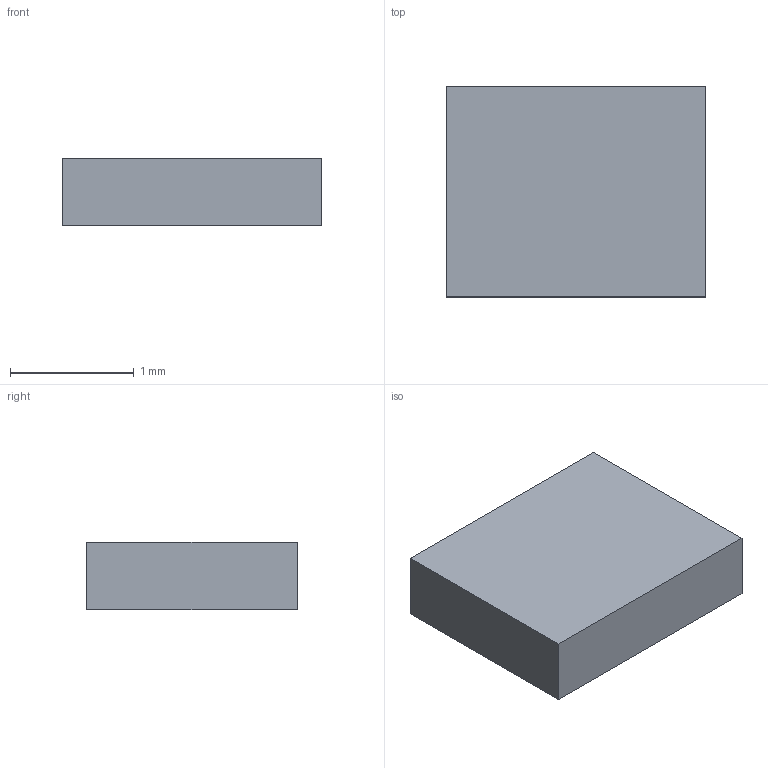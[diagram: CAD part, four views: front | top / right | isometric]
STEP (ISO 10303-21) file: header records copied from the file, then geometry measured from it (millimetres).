
FILE_DESCRIPTION(('Open CASCADE Model'),'2;1');
FILE_NAME('Open CASCADE Shape Model','2026-09-17T14:57:39',('Author'),( 'Open CASCADE'),'Open CASCADE STEP processor 7.8','Open CASCADE 7.8' ,'Unknown');
FILE_SCHEMA(('AUTOMOTIVE_DESIGN { 1 0 10303 214 1 1 1 1 }'));
Length unit declared in the file: millimetre
Products named in the file (1): Open CASCADE STEP translator 7.8 40
Bounding box: 2.1 x 1.7 x 0.55 mm (x, y, z)
Volume: 2 mm3; surface area: 11.3 mm2
Topology: 1 solids, 1 shells, 6 faces, 12 edges, 8 vertices
Faces by surface type: plane 6
Entity records: 322 total; most frequent: CARTESIAN_POINT 51, DIRECTION 50, LINE 36, VECTOR 36, ORIENTED_EDGE 24, PCURVE 24, DEFINITIONAL_REPRESENTATION 24, EDGE_CURVE 12
